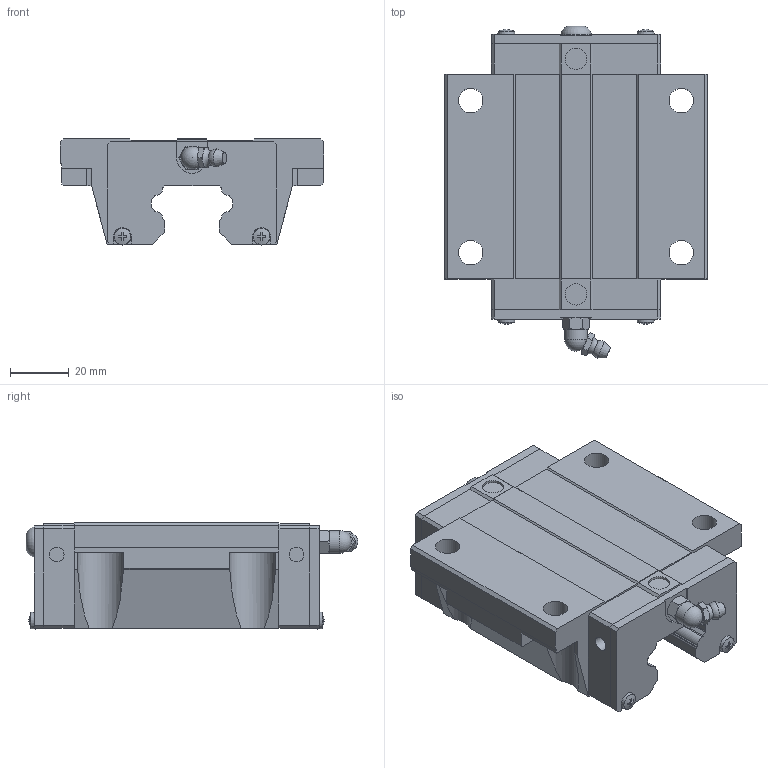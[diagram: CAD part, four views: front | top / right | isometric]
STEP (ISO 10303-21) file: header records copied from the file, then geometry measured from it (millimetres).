
FILE_DESCRIPTION(('STEP AP203'), '1');
FILE_NAME('Ìîäóëü îïîðíûé Hiwin HGW30CCZAH', '', ('UNSPECIFIED'), ('UNSPECIFIED'), 'ASCON STEP Converter 1.6', 'ASCON Math Kernel', '');
FILE_SCHEMA(('CONFIG_CONTROL_DESIGN'));
Length unit declared in the file: millimetre
Bounding box: 90 x 113.51 x 36.3 mm (x, y, z)
Volume: 188233.4 mm3; surface area: 33560.9 mm2
Topology: 1 solids, 5 shells, 335 faces, 915 edges, 599 vertices
Faces by surface type: plane 232, cylinder 69, cone 23, torus 10, sphere 1
Full cylindrical faces by diameter (mm): 3 x2, 3.3 x2, 5 x4, 6 x1, 6.2 x2, 7.3 x2, 7.847 x1, 8.376 x4, 10.3 x1
Entity records: 16614 total; most frequent: CARTESIAN_POINT 5652, ORIENTED_EDGE 1758, DIRECTION 1588, EDGE_CURVE 879, VERTEX_POINT 598, LINE 584, VECTOR 584, AXIS2_PLACEMENT_3D 502
